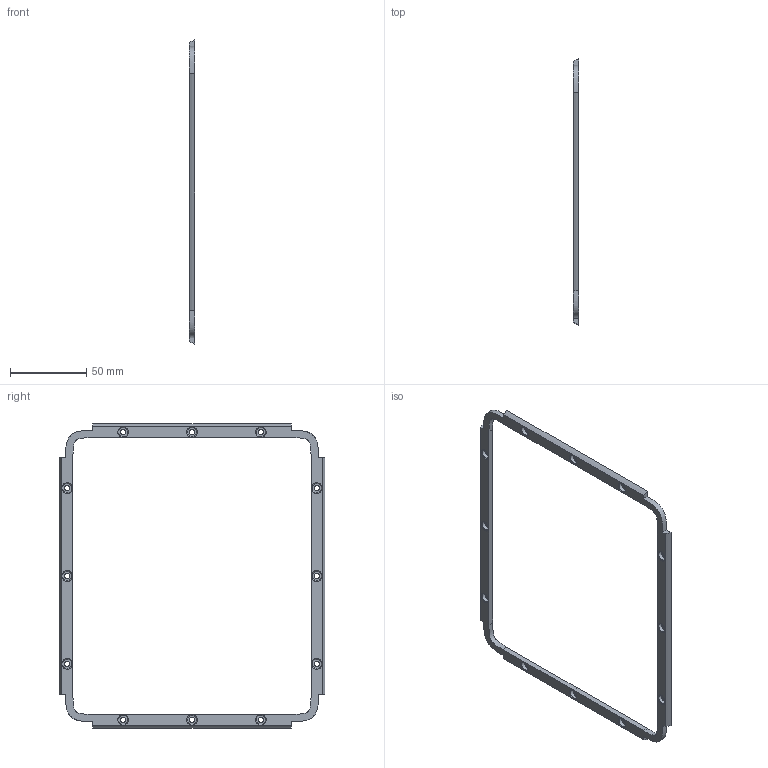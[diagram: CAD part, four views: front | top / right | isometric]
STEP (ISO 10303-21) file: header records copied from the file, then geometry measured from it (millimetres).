
FILE_DESCRIPTION(/* description */ (''),/* implementation_level */ '2;1');
FILE_NAME(/* name */ 'INTERNAL DOOR BRACKET (1).step',/* time_stamp */ '2024-02-28T17:11:07Z',/* author */ (''),/* organization */ (''),/* preprocessor_version */ 'ST-DEVELOPER v20',/* originating_system */ 'Autodesk Translation Framework v12.20.1.177',/* authorisation */ '');
FILE_SCHEMA (('AUTOMOTIVE_DESIGN { 1 0 10303 214 3 1 1 }'));
Length unit declared in the file: millimetre
Products named in the file (1): INTERNAL DOOR BRACKET (1)
Bounding box: 3.6 x 173.87 x 198.87 mm (x, y, z)
Volume: 17672.9 mm3; surface area: 16008.1 mm2
Topology: 1 solids, 1 shells, 74 faces, 180 edges, 120 vertices
Faces by surface type: plane 26, cylinder 24, torus 12, bspline 12
Full cylindrical faces by diameter (mm): 3.5 x12, 6 x12
Entity records: 3220 total; most frequent: CARTESIAN_POINT 1395, ORIENTED_EDGE 360, DIRECTION 358, EDGE_CURVE 180, AXIS2_PLACEMENT_3D 147, VERTEX_POINT 120, EDGE_LOOP 112, CIRCLE 84
